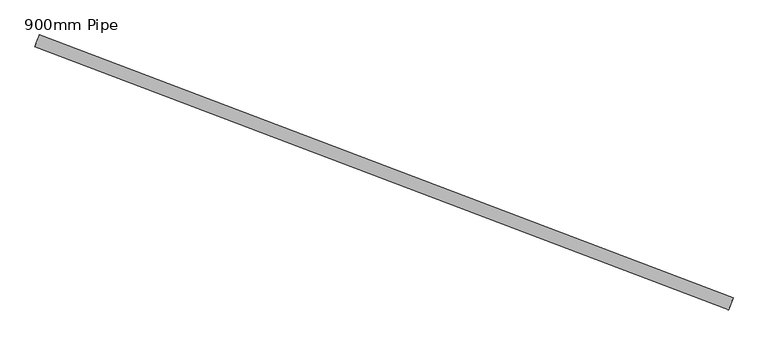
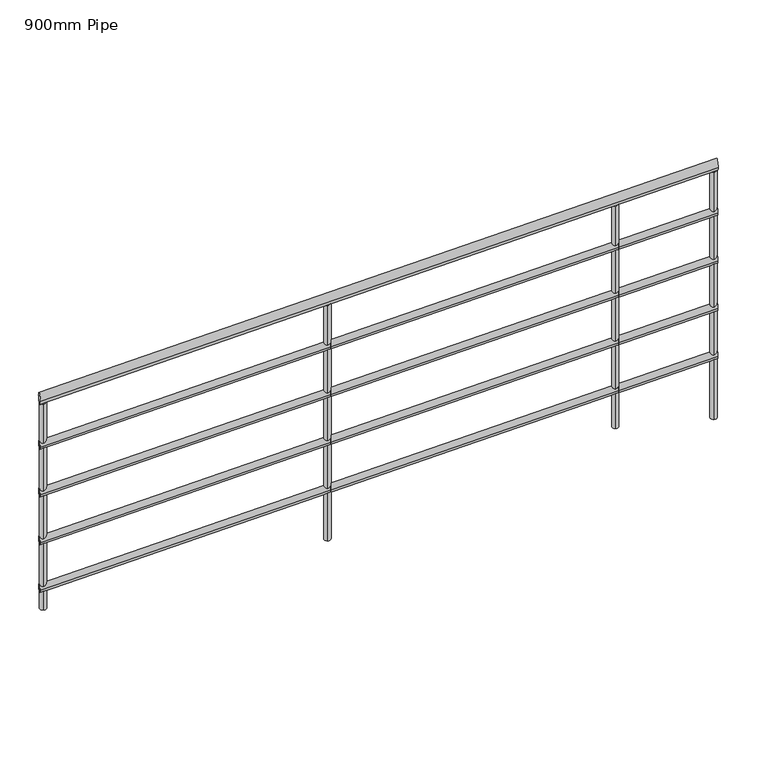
"""IFC4 building model written with IfcOpenShell, lengths in millimetres: railing geometry, 900mm Pipe."""

from ifc_helpers import new_model, si_unit, frame, origin, place, context, project, spatial, circle_curve, ellipse_curve, source, transform, mapped, element, save
from ifc_brep_helpers import plane_surface, cylinder_surface, advanced_brep


def railing_900mm_pipe_5749f562(model_context):
    return source(origin(), model_context, "Body", "AdvancedBrep", [
        advanced_brep(
        [(945422.1714963, -14999.0329101, 8558.386247), (945407.9641737, -15036.4247807, 8558.386247), (947622.3494377, -15835.0070795, 9275.5627176), (947608.142115, -15872.39895, 9275.5627176)],
        [
            (0, 1, ellipse_curve(frame((945415.067835, -15017.7288454, 8558.386247), z_axis=(-0.9347967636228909, 0.35518306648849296, 0.0), x_axis=(0.0, 0.0, -1.0)), 20.9078706, 20.0)),
            (1, 0, ellipse_curve(frame((945415.067835, -15017.7288454, 8558.386247), z_axis=(-0.9347967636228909, 0.35518306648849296, 0.0), x_axis=(0.0, 0.0, -1.0)), 20.9078706, 20.0)),
            (2, 3, ellipse_curve(frame((947615.2457763, -15853.7030148, 9275.5627176), z_axis=(0.9347967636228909, -0.35518306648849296, 0.0), x_axis=(0.0, 0.0, -1.0)), 20.9078706, 20.0)),
            (3, 2, ellipse_curve(frame((947615.2457763, -15853.7030148, 9275.5627176), z_axis=(0.9347967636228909, -0.35518306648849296, 0.0), x_axis=(0.0, 0.0, -1.0)), 20.9078706, 20.0)),
            (0, 2),
            (3, 1),
        ],
        [
            plane_surface(frame((945415.067835, -15017.7288454, 8579.2941176), z_axis=(-0.9347967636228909, 0.35518306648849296, 0.0), x_axis=(0.35518306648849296, 0.9347967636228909, 0.0))),
            plane_surface(frame((947615.2457763, -15853.7030148, 9296.4705882), z_axis=(0.9347967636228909, -0.35518306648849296, 0.0), x_axis=(0.35518306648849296, 0.9347967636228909, 0.0))),
            cylinder_surface(frame((945420.5172868, -15019.7994056, 8560.1625663), z_axis=(-0.894205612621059, 0.3397601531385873, -0.2914778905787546), x_axis=(-0.355183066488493, -0.9347967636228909, 0.0)), 20.0),
        ],
        [
            (0, [[1, 2]]),
            (1, [[3, 4]]),
            (2, [[-1, 5, -4, 6]]),
            (2, [[-2, -6, -3, -5]]),
        ],
    ),
        advanced_brep(
        [(945420.395581, -15003.7068939, 8363.6132147), (945409.740089, -15031.7507968, 8363.6132147), (947620.5735223, -15839.6810633, 9080.7896853), (947609.9180303, -15867.7249662, 9080.7896853)],
        [
            (0, 1, ellipse_curve(frame((945415.067835, -15017.7288454, 8363.6132147), z_axis=(-0.9347967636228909, 0.35518306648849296, 0.0), x_axis=(0.0, 0.0, -1.0)), 15.680903, 15.0)),
            (1, 0, ellipse_curve(frame((945415.067835, -15017.7288454, 8363.6132147), z_axis=(-0.9347967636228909, 0.35518306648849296, 0.0), x_axis=(0.0, 0.0, -1.0)), 15.680903, 15.0)),
            (2, 3, ellipse_curve(frame((947615.2457763, -15853.7030148, 9080.7896853), z_axis=(0.9347967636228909, -0.35518306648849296, 0.0), x_axis=(0.0, 0.0, -1.0)), 15.680903, 15.0)),
            (3, 2, ellipse_curve(frame((947615.2457763, -15853.7030148, 9080.7896853), z_axis=(0.9347967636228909, -0.35518306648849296, 0.0), x_axis=(0.0, 0.0, -1.0)), 15.680903, 15.0)),
            (0, 2),
            (3, 1),
        ],
        [
            plane_surface(frame((945415.067835, -15017.7288454, 8379.2941176), z_axis=(-0.9347967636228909, 0.35518306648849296, 0.0), x_axis=(0.35518306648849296, 0.9347967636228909, 0.0))),
            plane_surface(frame((947615.2457763, -15853.7030148, 9096.4705882), z_axis=(0.9347967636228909, -0.35518306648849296, 0.0), x_axis=(0.35518306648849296, 0.9347967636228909, 0.0))),
            cylinder_surface(frame((945419.1549238, -15019.2817655, 8364.9454542), z_axis=(-0.894205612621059, 0.3397601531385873, -0.2914778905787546), x_axis=(-0.355183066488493, -0.9347967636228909, 0.0)), 15.0),
        ],
        [
            (0, [[1, 2]]),
            (1, [[3, 4]]),
            (2, [[-1, 5, -4, 6]]),
            (2, [[-2, -6, -3, -5]]),
        ],
    ),
        advanced_brep(
        [(945420.395581, -15003.7068939, 8163.6132147), (945409.740089, -15031.7507968, 8163.6132147), (947620.5735223, -15839.6810633, 8880.7896853), (947609.9180303, -15867.7249662, 8880.7896853)],
        [
            (0, 1, ellipse_curve(frame((945415.067835, -15017.7288454, 8163.6132147), z_axis=(-0.9347967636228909, 0.35518306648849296, 0.0), x_axis=(0.0, 0.0, -1.0)), 15.680903, 15.0)),
            (1, 0, ellipse_curve(frame((945415.067835, -15017.7288454, 8163.6132147), z_axis=(-0.9347967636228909, 0.35518306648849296, 0.0), x_axis=(0.0, 0.0, -1.0)), 15.680903, 15.0)),
            (2, 3, ellipse_curve(frame((947615.2457763, -15853.7030148, 8880.7896853), z_axis=(0.9347967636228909, -0.35518306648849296, 0.0), x_axis=(0.0, 0.0, -1.0)), 15.680903, 15.0)),
            (3, 2, ellipse_curve(frame((947615.2457763, -15853.7030148, 8880.7896853), z_axis=(0.9347967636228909, -0.35518306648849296, 0.0), x_axis=(0.0, 0.0, -1.0)), 15.680903, 15.0)),
            (0, 2),
            (3, 1),
        ],
        [
            plane_surface(frame((945415.067835, -15017.7288454, 8179.2941176), z_axis=(-0.9347967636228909, 0.35518306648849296, 0.0), x_axis=(0.35518306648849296, 0.9347967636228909, 0.0))),
            plane_surface(frame((947615.2457763, -15853.7030148, 8896.4705882), z_axis=(0.9347967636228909, -0.35518306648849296, 0.0), x_axis=(0.35518306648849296, 0.9347967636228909, 0.0))),
            cylinder_surface(frame((945419.1549238, -15019.2817655, 8164.9454542), z_axis=(-0.894205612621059, 0.3397601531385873, -0.2914778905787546), x_axis=(-0.355183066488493, -0.9347967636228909, 0.0)), 15.0),
        ],
        [
            (0, [[1, 2]]),
            (1, [[3, 4]]),
            (2, [[-1, 5, -4, 6]]),
            (2, [[-2, -6, -3, -5]]),
        ],
    ),
        advanced_brep(
        [(945420.395581, -15003.7068939, 7963.6132147), (945409.740089, -15031.7507968, 7963.6132147), (947620.5735223, -15839.6810633, 8680.7896853), (947609.9180303, -15867.7249662, 8680.7896853)],
        [
            (0, 1, ellipse_curve(frame((945415.067835, -15017.7288454, 7963.6132147), z_axis=(-0.9347967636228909, 0.35518306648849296, 0.0), x_axis=(0.0, 0.0, -1.0)), 15.680903, 15.0)),
            (1, 0, ellipse_curve(frame((945415.067835, -15017.7288454, 7963.6132147), z_axis=(-0.9347967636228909, 0.35518306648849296, 0.0), x_axis=(0.0, 0.0, -1.0)), 15.680903, 15.0)),
            (2, 3, ellipse_curve(frame((947615.2457763, -15853.7030148, 8680.7896853), z_axis=(0.9347967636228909, -0.35518306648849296, 0.0), x_axis=(0.0, 0.0, -1.0)), 15.680903, 15.0)),
            (3, 2, ellipse_curve(frame((947615.2457763, -15853.7030148, 8680.7896853), z_axis=(0.9347967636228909, -0.35518306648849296, 0.0), x_axis=(0.0, 0.0, -1.0)), 15.680903, 15.0)),
            (0, 2),
            (3, 1),
        ],
        [
            plane_surface(frame((945415.067835, -15017.7288454, 7979.2941176), z_axis=(-0.9347967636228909, 0.35518306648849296, 0.0), x_axis=(0.35518306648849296, 0.9347967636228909, 0.0))),
            plane_surface(frame((947615.2457763, -15853.7030148, 8696.4705882), z_axis=(0.9347967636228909, -0.35518306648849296, 0.0), x_axis=(0.35518306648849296, 0.9347967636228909, 0.0))),
            cylinder_surface(frame((945419.1549238, -15019.2817655, 7964.9454542), z_axis=(-0.894205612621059, 0.3397601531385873, -0.2914778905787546), x_axis=(-0.355183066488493, -0.9347967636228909, 0.0)), 15.0),
        ],
        [
            (0, [[1, 2]]),
            (1, [[3, 4]]),
            (2, [[-1, 5, -4, 6]]),
            (2, [[-2, -6, -3, -5]]),
        ],
    ),
        advanced_brep(
        [(945420.395581, -15003.7068939, 7763.6132147), (945409.740089, -15031.7507968, 7763.6132147), (947620.5735223, -15839.6810633, 8480.7896853), (947609.9180303, -15867.7249662, 8480.7896853)],
        [
            (0, 1, ellipse_curve(frame((945415.067835, -15017.7288454, 7763.6132147), z_axis=(-0.9347967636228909, 0.35518306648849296, 0.0), x_axis=(0.0, 0.0, -1.0)), 15.680903, 15.0)),
            (1, 0, ellipse_curve(frame((945415.067835, -15017.7288454, 7763.6132147), z_axis=(-0.9347967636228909, 0.35518306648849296, 0.0), x_axis=(0.0, 0.0, -1.0)), 15.680903, 15.0)),
            (2, 3, ellipse_curve(frame((947615.2457763, -15853.7030148, 8480.7896853), z_axis=(0.9347967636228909, -0.35518306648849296, 0.0), x_axis=(0.0, 0.0, -1.0)), 15.680903, 15.0)),
            (3, 2, ellipse_curve(frame((947615.2457763, -15853.7030148, 8480.7896853), z_axis=(0.9347967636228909, -0.35518306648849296, 0.0), x_axis=(0.0, 0.0, -1.0)), 15.680903, 15.0)),
            (0, 2),
            (3, 1),
        ],
        [
            plane_surface(frame((945415.067835, -15017.7288454, 7779.2941176), z_axis=(-0.9347967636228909, 0.35518306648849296, 0.0), x_axis=(0.35518306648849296, 0.9347967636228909, 0.0))),
            plane_surface(frame((947615.2457763, -15853.7030148, 8496.4705882), z_axis=(0.9347967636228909, -0.35518306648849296, 0.0), x_axis=(0.35518306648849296, 0.9347967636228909, 0.0))),
            cylinder_surface(frame((945419.1549238, -15019.2817655, 7764.9454542), z_axis=(-0.894205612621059, 0.3397601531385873, -0.2914778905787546), x_axis=(-0.355183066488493, -0.9347967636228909, 0.0)), 15.0),
        ],
        [
            (0, [[1, 2]]),
            (1, [[3, 4]]),
            (2, [[-1, 5, -4, 6]]),
            (2, [[-2, -6, -3, -5]]),
        ],
    ),
        advanced_brep(
        [(947280.2215739, -15739.7799379, 9146.8965794), (947280.2215739, -15739.7799379, 8217.1764706), (947289.1011506, -15716.4100188, 8217.1764706), (947289.1011506, -15716.4100188, 9146.8965794)],
        [
            (0, 1),
            (1, 2, circle_curve(frame((947284.6613622, -15728.0949784, 8217.1764706), z_axis=(0.0, 0.0, 1.0), x_axis=(0.35518306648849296, 0.9347967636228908, 0.0)), 12.5)),
            (2, 3),
            (3, 0, ellipse_curve(frame((947284.6613622, -15728.0949784, 9146.8965794), z_axis=(0.27247258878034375, -0.10352801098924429, -0.9565775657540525), x_axis=(0.8942056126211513, -0.3397601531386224, 0.2914778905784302)), 13.0674191, 12.5)),
            (0, 3, ellipse_curve(frame((947284.6613622, -15728.0949784, 9146.8965794), z_axis=(0.27247258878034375, -0.10352801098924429, -0.9565775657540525), x_axis=(0.8942056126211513, -0.3397601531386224, 0.2914778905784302)), 13.0674191, 12.5)),
            (2, 1, circle_curve(frame((947284.6613622, -15728.0949784, 8217.1764706), z_axis=(0.0, 0.0, 1.0), x_axis=(0.35518306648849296, 0.9347967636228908, 0.0)), 12.5)),
        ],
        [
            cylinder_surface(frame((947284.6613622, -15728.0949784, 8117.1764706), z_axis=(0.0, 0.0, 1.0), x_axis=(0.35518306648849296, 0.9347967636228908, 0.0)), 12.5),
            plane_surface(frame((947316.910858, -15713.6046359, 9154.5143069), z_axis=(-0.27247258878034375, 0.10352801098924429, 0.9565775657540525), x_axis=(-0.35518306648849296, -0.9347967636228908, 0.0))),
            plane_surface(frame((947270.1710198, -15695.8454826, 8217.1764706), z_axis=(0.0, 0.0, -1.0), x_axis=(-0.35518306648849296, -0.9347967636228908, 0.0))),
        ],
        [
            (0, [[1, 2, 3, 4]]),
            (0, [[-1, 5, -3, 6]]),
            (1, [[-4, -5]]),
            (2, [[-2, -6]]),
        ],
    ),
        advanced_brep(
        [(946345.4248103, -15384.5968714, 8842.1874779), (946345.4248103, -15384.5968714, 7858.5882353), (946354.304387, -15361.2269523, 7858.5882353), (946354.304387, -15361.2269523, 8842.1874779)],
        [
            (0, 1),
            (1, 2, circle_curve(frame((946349.8645986, -15372.9119119, 7858.5882353), z_axis=(0.0, 0.0, 1.0), x_axis=(0.35518306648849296, 0.9347967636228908, 0.0)), 12.5)),
            (2, 3),
            (3, 0, ellipse_curve(frame((946349.8645986, -15372.9119119, 8842.1874779), z_axis=(0.27247258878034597, -0.10352801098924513, -0.9565775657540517), x_axis=(0.8942056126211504, -0.33976015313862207, 0.29147789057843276)), 13.0674191, 12.5)),
            (0, 3, ellipse_curve(frame((946349.8645986, -15372.9119119, 8842.1874779), z_axis=(0.27247258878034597, -0.10352801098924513, -0.9565775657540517), x_axis=(0.8942056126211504, -0.33976015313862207, 0.29147789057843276)), 13.0674191, 12.5)),
            (2, 1, circle_curve(frame((946349.8645986, -15372.9119119, 7858.5882353), z_axis=(0.0, 0.0, 1.0), x_axis=(0.35518306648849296, 0.9347967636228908, 0.0)), 12.5)),
        ],
        [
            cylinder_surface(frame((946349.8645986, -15372.9119119, 7758.5882353), z_axis=(0.0, 0.0, 1.0), x_axis=(0.35518306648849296, 0.9347967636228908, 0.0)), 12.5),
            plane_surface(frame((946382.1140944, -15358.4215694, 8849.8052054), z_axis=(-0.27247258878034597, 0.10352801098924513, 0.9565775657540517), x_axis=(-0.35518306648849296, -0.9347967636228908, 0.0))),
            plane_surface(frame((946335.3742562, -15340.6624161, 7858.5882353), z_axis=(0.0, 0.0, -1.0), x_axis=(-0.35518306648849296, -0.9347967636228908, 0.0))),
        ],
        [
            (0, [[1, 2, 3, 4]]),
            (0, [[-1, 5, -3, 6]]),
            (1, [[-4, -5]]),
            (2, [[-2, -6]]),
        ],
    ),
        advanced_brep(
        [(947599.1210285, -15860.948186, 9250.8459832), (947599.1210285, -15860.948186, 8217.1764706), (947608.0006051, -15837.5782669, 8217.1764706), (947608.0006051, -15837.5782669, 9250.8459832)],
        [
            (0, 1),
            (1, 2, circle_curve(frame((947603.5608168, -15849.2632264, 8217.1764706), z_axis=(0.0, 0.0, 1.0), x_axis=(0.35518306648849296, 0.9347967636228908, 0.0)), 12.5)),
            (2, 3),
            (3, 0, ellipse_curve(frame((947603.5608168, -15849.2632264, 9250.8459832), z_axis=(0.27247258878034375, -0.10352801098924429, -0.9565775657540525), x_axis=(0.8942056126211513, -0.3397601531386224, 0.2914778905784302)), 13.0674191, 12.5)),
            (0, 3, ellipse_curve(frame((947603.5608168, -15849.2632264, 9250.8459832), z_axis=(0.27247258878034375, -0.10352801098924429, -0.9565775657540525), x_axis=(0.8942056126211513, -0.3397601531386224, 0.2914778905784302)), 13.0674191, 12.5)),
            (2, 1, circle_curve(frame((947603.5608168, -15849.2632264, 8217.1764706), z_axis=(0.0, 0.0, 1.0), x_axis=(0.35518306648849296, 0.9347967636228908, 0.0)), 12.5)),
        ],
        [
            cylinder_surface(frame((947603.5608168, -15849.2632264, 8117.1764706), z_axis=(0.0, 0.0, 1.0), x_axis=(0.35518306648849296, 0.9347967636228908, 0.0)), 12.5),
            plane_surface(frame((947635.8103125, -15834.772884, 9258.4637107), z_axis=(-0.27247258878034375, 0.10352801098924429, 0.9565775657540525), x_axis=(-0.35518306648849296, -0.9347967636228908, 0.0))),
            plane_surface(frame((947589.0704744, -15817.0137307, 8217.1764706), z_axis=(0.0, 0.0, -1.0), x_axis=(-0.35518306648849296, -0.9347967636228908, 0.0))),
        ],
        [
            (0, [[1, 2, 3, 4]]),
            (0, [[-1, 5, -3, 6]]),
            (1, [[-4, -5]]),
            (2, [[-2, -6]]),
        ],
    ),
        advanced_brep(
        [(945422.3130062, -15033.8535933, 8541.2872401), (945422.3130062, -15033.8535933, 7679.2941176), (945431.1925829, -15010.4836742, 7679.2941176), (945431.1925829, -15010.4836742, 8541.2872401)],
        [
            (0, 1),
            (1, 2, circle_curve(frame((945426.7527945, -15022.1686337, 7679.2941176), z_axis=(0.0, 0.0, 1.0), x_axis=(0.35518306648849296, 0.9347967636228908, 0.0)), 12.5)),
            (2, 3),
            (3, 0, ellipse_curve(frame((945426.7527945, -15022.1686337, 8541.2872401), z_axis=(0.27247258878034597, -0.10352801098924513, -0.9565775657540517), x_axis=(0.8942056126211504, -0.33976015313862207, 0.29147789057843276)), 13.0674191, 12.5)),
            (0, 3, ellipse_curve(frame((945426.7527945, -15022.1686337, 8541.2872401), z_axis=(0.27247258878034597, -0.10352801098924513, -0.9565775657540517), x_axis=(0.8942056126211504, -0.33976015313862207, 0.29147789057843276)), 13.0674191, 12.5)),
            (2, 1, circle_curve(frame((945426.7527945, -15022.1686337, 7679.2941176), z_axis=(0.0, 0.0, 1.0), x_axis=(0.35518306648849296, 0.9347967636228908, 0.0)), 12.5)),
        ],
        [
            cylinder_surface(frame((945426.7527945, -15022.1686337, 7579.2941176), z_axis=(0.0, 0.0, 1.0), x_axis=(0.35518306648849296, 0.9347967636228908, 0.0)), 12.5),
            plane_surface(frame((945459.0022903, -15007.6782913, 8548.9049677), z_axis=(-0.27247258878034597, 0.10352801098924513, 0.9565775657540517), x_axis=(-0.35518306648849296, -0.9347967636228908, 0.0))),
            plane_surface(frame((945412.2624521, -14989.919138, 7679.2941176), z_axis=(0.0, 0.0, -1.0), x_axis=(-0.35518306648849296, -0.9347967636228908, 0.0))),
        ],
        [
            (0, [[1, 2, 3, 4]]),
            (0, [[-1, 5, -3, 6]]),
            (1, [[-4, -5]]),
            (2, [[-2, -6]]),
        ],
    ),
    ])


if __name__ == "__main__":
    model = new_model("IFC4")
    model_context = context("Model", 3, world=origin())
    ifc_project = project(units=[si_unit("LENGTHUNIT", "METRE", prefix="MILLI")], contexts=[model_context])
    site = spatial("IfcSite", under=ifc_project)
    building = spatial("IfcBuilding", under=site)
    placement = place(None, origin())
    railing_900mm_pipe_shape = railing_900mm_pipe_5749f562(model_context)
    element("IfcRailing", 1, ObjectType="900mm Pipe", at=placement, inside=building, context=model_context, shape_type="MappedRepresentation", body=[
        mapped(railing_900mm_pipe_shape, transform((0.0, 0.0, 0.0), x_axis=(1.0, 0.0, 0.0), y_axis=(0.0, 1.0, 0.0), z_axis=(0.0, 0.0, 1.0))),
    ])
    save(model, "model.ifc")
